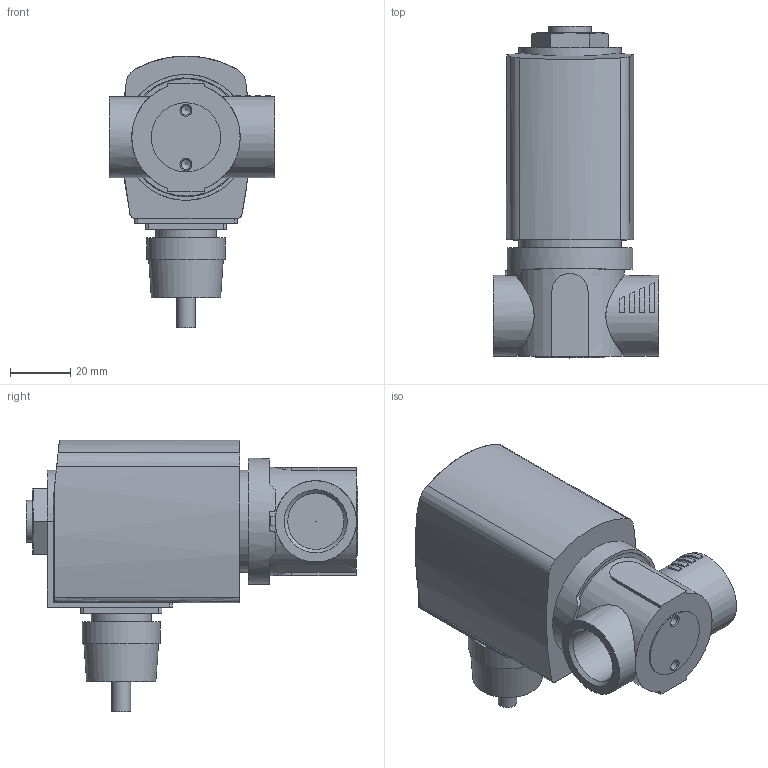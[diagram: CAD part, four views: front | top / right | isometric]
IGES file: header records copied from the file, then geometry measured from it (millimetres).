
Start section: Data from Parasolid IGES Translator 26.0.171, Copyright(c) 2006 Siemens PLM Software. All Rights Reserved.
Global section: file name: 6027-A-8-FKM___FKM-VA-G_1_2-42-024___UC.igs; native system: By Siemens PLM Incorporated; preprocessor: XPlus GENERIC/IGES 26.0.171; author: Noname; organization: Noname; date: 20240321.223853; units: inch
Bounding box: 55 x 110.2 x 90.3 mm (x, y, z)
Surface area: 30894.4 mm2 (no closed solid volume)
Topology: 0 solids, 0 shells, 129 faces, 620 edges, 591 vertices
Faces by surface type: extrusion 71, revolution 58
